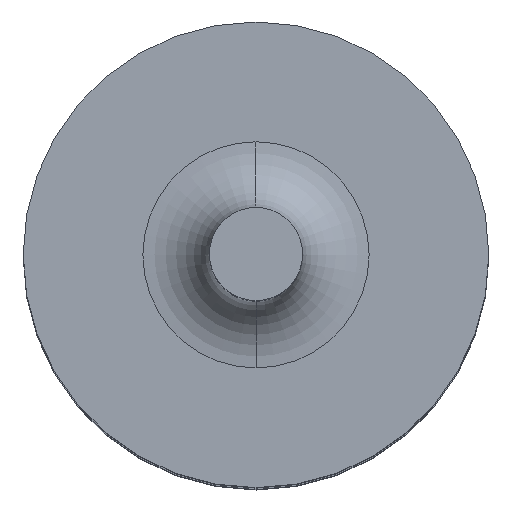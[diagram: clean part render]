
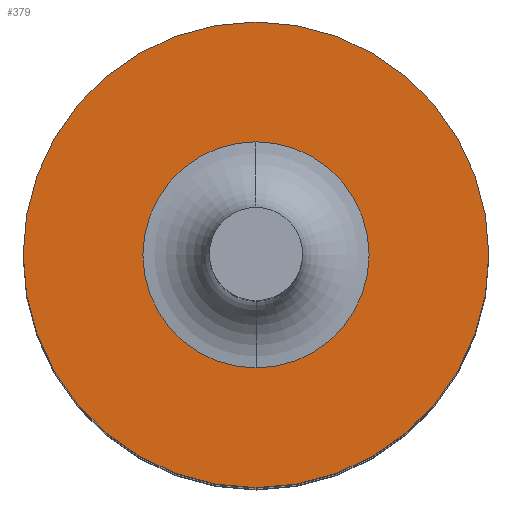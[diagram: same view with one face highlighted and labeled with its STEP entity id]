
A CAD part, top view. The second image highlights one B-rep face of the part: STEP entity #379.
In plain terms, the highlighted planar face has unit normal (0, 0, 1).
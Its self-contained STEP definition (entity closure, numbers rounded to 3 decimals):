
#134=CARTESIAN_POINT('',(0.,0.,5.));
#135=DIRECTION('',(0.,0.,1.));
#136=DIRECTION('',(0.,1.,0.));
#137=AXIS2_PLACEMENT_3D('',#134,#135,#136);
#139=CARTESIAN_POINT('',(0.,0.,5.));
#140=DIRECTION('',(0.,0.,-1.));
#141=DIRECTION('',(0.,1.,0.));
#142=AXIS2_PLACEMENT_3D('',#139,#140,#141);
#144=CARTESIAN_POINT('',(0.,0.,5.));
#145=DIRECTION('',(0.,0.,-1.));
#146=DIRECTION('',(0.,-1.,0.));
#147=AXIS2_PLACEMENT_3D('',#144,#145,#146);
#149=CARTESIAN_POINT('',(0.,0.,5.));
#150=DIRECTION('',(0.,0.,-1.));
#151=DIRECTION('',(0.,1.,0.));
#152=AXIS2_PLACEMENT_3D('',#149,#150,#151);
#314=CARTESIAN_POINT('',(0.,1.75,5.));
#315=CARTESIAN_POINT('',(0.,-1.75,5.));
#316=VERTEX_POINT('',#314);
#317=VERTEX_POINT('',#315);
#350=CARTESIAN_POINT('',(0.,-0.85,5.));
#351=CARTESIAN_POINT('',(0.,0.85,5.));
#352=VERTEX_POINT('',#350);
#353=VERTEX_POINT('',#351);
#362=CARTESIAN_POINT('',(0.,0.,5.));
#363=DIRECTION('',(0.,0.,-1.));
#364=DIRECTION('',(0.,-1.,0.));
#365=AXIS2_PLACEMENT_3D('',#362,#363,#364);
#366=PLANE('',#365);
#368=ORIENTED_EDGE('',*,*,#367,.F.);
#370=ORIENTED_EDGE('',*,*,#369,.T.);
#371=EDGE_LOOP('',(#368,#370));
#372=FACE_OUTER_BOUND('',#371,.F.);
#374=ORIENTED_EDGE('',*,*,#373,.F.);
#376=ORIENTED_EDGE('',*,*,#375,.F.);
#377=EDGE_LOOP('',(#374,#376));
#378=FACE_BOUND('',#377,.F.);
#138=CIRCLE('',#137,1.75);
#143=CIRCLE('',#142,1.75);
#148=CIRCLE('',#147,0.85);
#153=CIRCLE('',#152,0.85);
#367=EDGE_CURVE('',#316,#317,#138,.T.);
#369=EDGE_CURVE('',#316,#317,#143,.T.);
#373=EDGE_CURVE('',#352,#353,#148,.T.);
#375=EDGE_CURVE('',#353,#352,#153,.T.);
#379=ADVANCED_FACE('',(#372,#378),#366,.F.);
